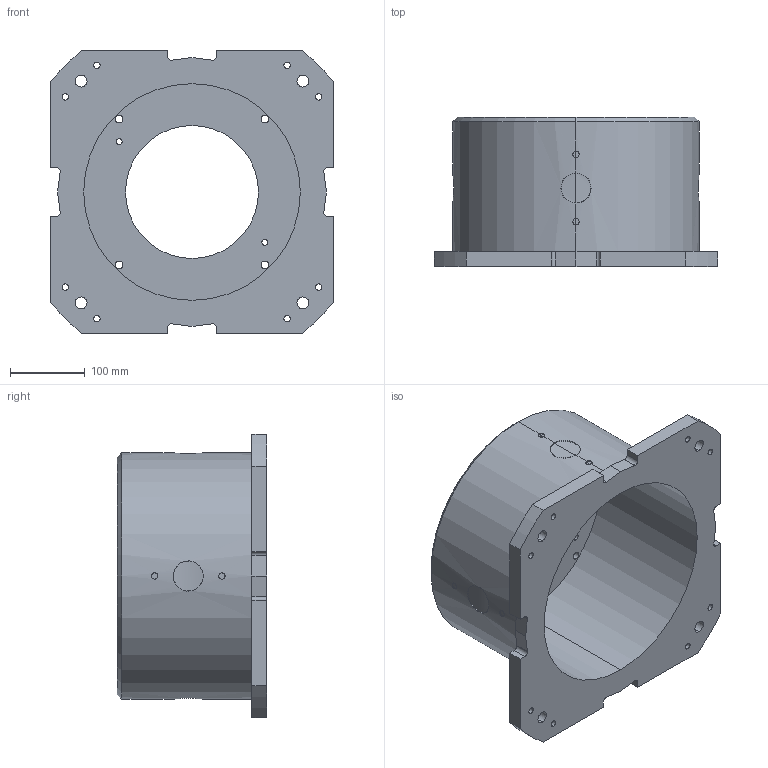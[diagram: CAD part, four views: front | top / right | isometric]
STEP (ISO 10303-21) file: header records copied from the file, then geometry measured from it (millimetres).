
FILE_DESCRIPTION (( 'STEP AP214' ), '1' );
FILE_NAME ('E-200.STEP', '2024-01-19T08:37:45', ( '' ), ( '' ), 'SwSTEP 2.0', 'SolidWorks 2022', '' );
FILE_SCHEMA (( 'AUTOMOTIVE_DESIGN' ));
Length unit declared in the file: millimetre
Products named in the file (1): E-200
Bounding box: 380 x 200 x 380 mm (x, y, z)
Volume: 5626389.8 mm3; surface area: 623822.5 mm2
Topology: 1 solids, 1 shells, 131 faces, 361 edges, 240 vertices
Faces by surface type: cylinder 93, plane 28, bspline 8, cone 2
Entity records: 7560 total; most frequent: CARTESIAN_POINT 3677, ORIENTED_EDGE 722, DIRECTION 661, EDGE_CURVE 361, AXIS2_PLACEMENT_3D 250, VERTEX_POINT 240, EDGE_LOOP 177, VECTOR 161
